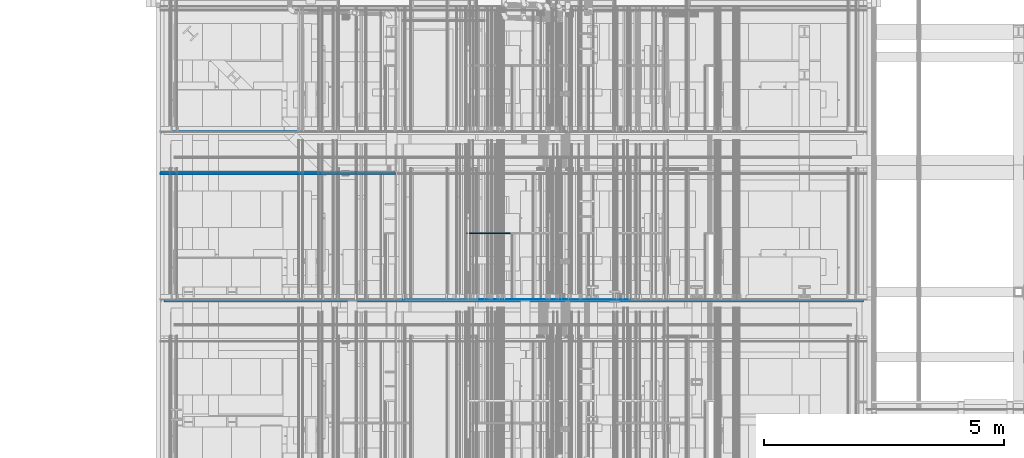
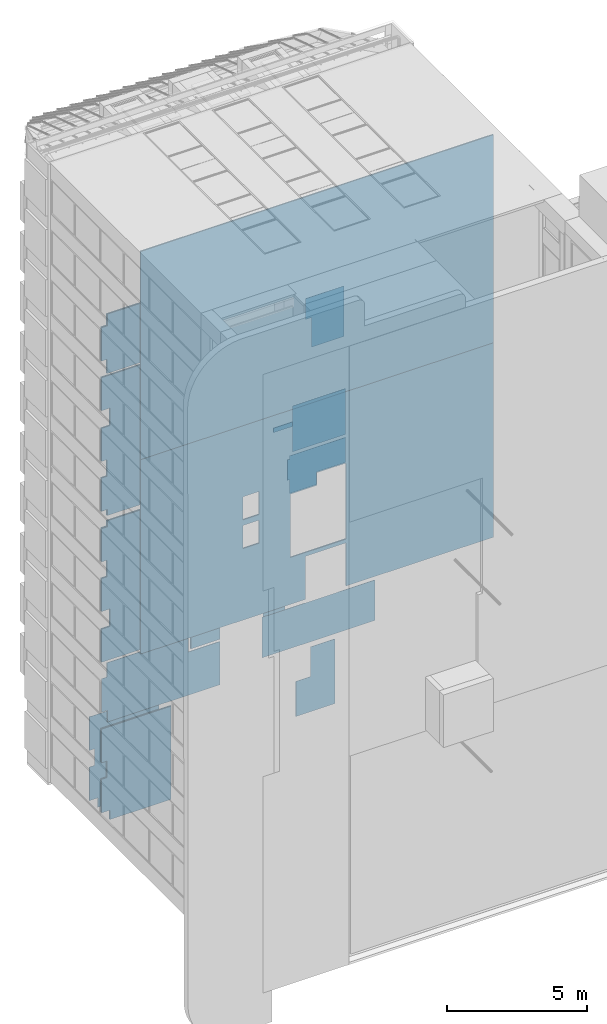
# One storey, part 250 of 583: 20 slabs.
"""IFC2X3 building model written with IfcOpenShell, lengths in metres."""

from ifc_helpers import new_model, entity, si_unit, converted_unit, derived_unit, money_unit, direction, frame, origin_with_axes, place, context, subcontext, project, spatial, faceted_brep, material, type_object, element, save


model = new_model("IFC2X3")

# Units and contexts
model_context = context("Model", 3, precision=1e-05, world=origin_with_axes(), true_north=direction((0.0, 1.0)))
body_context = subcontext(model_context, "Body", "Model", "MODEL_VIEW", scale=1.0)
ifc_project = project(units=[si_unit("LENGTHUNIT", "METRE"), si_unit("AREAUNIT", "SQUARE_METRE"), si_unit("VOLUMEUNIT", "CUBIC_METRE"), si_unit("ABSORBEDDOSEUNIT", "GRAY"), si_unit("AMOUNTOFSUBSTANCEUNIT", "MOLE"), si_unit("DOSEEQUIVALENTUNIT", "SIEVERT"), si_unit("ELECTRICCAPACITANCEUNIT", "FARAD"), si_unit("ELECTRICCHARGEUNIT", "COULOMB"), si_unit("ELECTRICCONDUCTANCEUNIT", "SIEMENS"), si_unit("ELECTRICCURRENTUNIT", "AMPERE"), si_unit("ELECTRICRESISTANCEUNIT", "OHM"), si_unit("ELECTRICVOLTAGEUNIT", "VOLT"), si_unit("ENERGYUNIT", "JOULE"), si_unit("FORCEUNIT", "NEWTON"), si_unit("FREQUENCYUNIT", "HERTZ"), si_unit("ILLUMINANCEUNIT", "LUX"), si_unit("INDUCTANCEUNIT", "HENRY"), si_unit("LUMINOUSFLUXUNIT", "LUMEN"), si_unit("LUMINOUSINTENSITYUNIT", "CANDELA"), si_unit("MAGNETICFLUXDENSITYUNIT", "TESLA"), si_unit("MAGNETICFLUXUNIT", "WEBER"), si_unit("MASSUNIT", "GRAM"), converted_unit("PLANEANGLEUNIT", "degree", entity("IfcReal", 0.0174532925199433), si_unit("PLANEANGLEUNIT", "RADIAN"), dimensions=[0, 0, 0, 0, 0, 0, 0]), si_unit("POWERUNIT", "WATT"), si_unit("PRESSUREUNIT", "PASCAL"), si_unit("RADIOACTIVITYUNIT", "BECQUEREL"), si_unit("SOLIDANGLEUNIT", "STERADIAN"), si_unit("THERMODYNAMICTEMPERATUREUNIT", "KELVIN"), si_unit("TIMEUNIT", "SECOND"), derived_unit("ACCELERATIONUNIT", [(si_unit("LENGTHUNIT", "METRE"), 1), (si_unit("TIMEUNIT", "SECOND"), -2)]), derived_unit("ANGULARVELOCITYUNIT", [(converted_unit("PLANEANGLEUNIT", "degree", entity("IfcReal", 0.0174532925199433), si_unit("PLANEANGLEUNIT", "RADIAN"), dimensions=[0, 0, 0, 0, 0, 0, 0]), 1), (si_unit("TIMEUNIT", "SECOND"), -1)]), derived_unit("CURVATUREUNIT", [(converted_unit("PLANEANGLEUNIT", "degree", entity("IfcReal", 0.0174532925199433), si_unit("PLANEANGLEUNIT", "RADIAN"), dimensions=[0, 0, 0, 0, 0, 0, 0]), 1), (si_unit("LENGTHUNIT", "METRE"), -1)]), derived_unit("DYNAMICVISCOSITYUNIT", [(si_unit("PRESSUREUNIT", "PASCAL"), 1), (si_unit("TIMEUNIT", "SECOND"), 1)]), derived_unit("HEATFLUXDENSITYUNIT", [(si_unit("POWERUNIT", "WATT"), 1), (si_unit("LENGTHUNIT", "METRE"), -2)]), derived_unit("HEATINGVALUEUNIT", [(si_unit("ENERGYUNIT", "JOULE"), 1), (si_unit("MASSUNIT", "GRAM"), -1)]), derived_unit("INTEGERCOUNTRATEUNIT", [(si_unit("TIMEUNIT", "SECOND"), -1)]), derived_unit("IONCONCENTRATIONUNIT", [(si_unit("MASSUNIT", "GRAM"), 1), (si_unit("VOLUMEUNIT", "CUBIC_METRE"), -1)]), derived_unit("ISOTHERMALMOISTURECAPACITYUNIT", [(si_unit("VOLUMEUNIT", "CUBIC_METRE"), 1), (si_unit("MASSUNIT", "GRAM"), -1)]), derived_unit("KINEMATICVISCOSITYUNIT", [(si_unit("AREAUNIT", "SQUARE_METRE"), 1), (si_unit("TIMEUNIT", "SECOND"), -1)]), derived_unit("LINEARFORCEUNIT", [(si_unit("FORCEUNIT", "NEWTON"), 1), (si_unit("LENGTHUNIT", "METRE"), -1)]), derived_unit("LINEARMOMENTUNIT", [(si_unit("FORCEUNIT", "NEWTON"), 1), (si_unit("LENGTHUNIT", "METRE"), -1)]), derived_unit("LINEARSTIFFNESSUNIT", [(si_unit("FORCEUNIT", "NEWTON"), 1), (si_unit("LENGTHUNIT", "METRE"), -1)]), derived_unit("LINEARVELOCITYUNIT", [(si_unit("LENGTHUNIT", "METRE"), 1), (si_unit("TIMEUNIT", "SECOND"), -1)]), derived_unit("LUMINOUSINTENSITYDISTRIBUTIONUNIT", [(si_unit("LUMINOUSINTENSITYUNIT", "CANDELA"), 1), (si_unit("LUMINOUSFLUXUNIT", "LUMEN"), -1)]), derived_unit("MASSDENSITYUNIT", [(si_unit("MASSUNIT", "GRAM"), 1), (si_unit("VOLUMEUNIT", "CUBIC_METRE"), -1)]), derived_unit("MASSFLOWRATEUNIT", [(si_unit("MASSUNIT", "GRAM"), 1), (si_unit("TIMEUNIT", "SECOND"), -1)]), derived_unit("MASSPERLENGTHUNIT", [(si_unit("MASSUNIT", "GRAM"), 1), (si_unit("LENGTHUNIT", "METRE"), -1)]), derived_unit("MODULUSOFELASTICITYUNIT", [(si_unit("FORCEUNIT", "NEWTON"), 1), (si_unit("AREAUNIT", "SQUARE_METRE"), -1)]), derived_unit("MODULUSOFLINEARSUBGRADEREACTIONUNIT", [(si_unit("FORCEUNIT", "NEWTON"), 1), (si_unit("LENGTHUNIT", "METRE"), -2)]), derived_unit("MODULUSOFROTATIONALSUBGRADEREACTIONUNIT", [(si_unit("FORCEUNIT", "NEWTON"), 1), (si_unit("LENGTHUNIT", "METRE"), 1)]), derived_unit("MODULUSOFSUBGRADEREACTIONUNIT", [(si_unit("FORCEUNIT", "NEWTON"), 1), (si_unit("VOLUMEUNIT", "CUBIC_METRE"), -1)]), derived_unit("MOISTUREDIFFUSIVITYUNIT", [(si_unit("VOLUMEUNIT", "CUBIC_METRE"), 1), (si_unit("TIMEUNIT", "SECOND"), -1)]), derived_unit("MOLECULARWEIGHTUNIT", [(si_unit("MASSUNIT", "GRAM"), 1), (si_unit("AMOUNTOFSUBSTANCEUNIT", "MOLE"), -1)]), derived_unit("PLANARFORCEUNIT", [(si_unit("FORCEUNIT", "NEWTON"), 1), (si_unit("LENGTHUNIT", "METRE"), -2)]), derived_unit("ROTATIONALFREQUENCYUNIT", [(si_unit("TIMEUNIT", "SECOND"), -1)]), derived_unit("ROTATIONALMASSUNIT", [(si_unit("MASSUNIT", "GRAM"), 1), (si_unit("LENGTHUNIT", "METRE"), 2)]), derived_unit("ROTATIONALSTIFFNESSUNIT", [(si_unit("FORCEUNIT", "NEWTON"), 1), (si_unit("LENGTHUNIT", "METRE"), 1), (converted_unit("PLANEANGLEUNIT", "degree", entity("IfcReal", 0.0174532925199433), si_unit("PLANEANGLEUNIT", "RADIAN"), dimensions=[0, 0, 0, 0, 0, 0, 0]), -1)]), derived_unit("SECTIONAREAINTEGRALUNIT", [(si_unit("LENGTHUNIT", "METRE"), 5)]), derived_unit("SECTIONMODULUSUNIT", [(si_unit("LENGTHUNIT", "METRE"), 3)]), derived_unit("SHEARMODULUSUNIT", [(si_unit("FORCEUNIT", "NEWTON"), 1), (si_unit("AREAUNIT", "SQUARE_METRE"), -1)]), derived_unit("SOUNDPOWERUNIT", [(si_unit("ENERGYUNIT", "JOULE"), 1), (si_unit("TIMEUNIT", "SECOND"), -1)]), derived_unit("SPECIFICHEATCAPACITYUNIT", [(si_unit("FORCEUNIT", "NEWTON"), 1), (si_unit("MASSUNIT", "GRAM"), -1), (si_unit("THERMODYNAMICTEMPERATUREUNIT", "KELVIN"), -1)]), derived_unit("TEMPERATUREGRADIENTUNIT", [(si_unit("THERMODYNAMICTEMPERATUREUNIT", "KELVIN"), 1), (si_unit("LENGTHUNIT", "METRE"), -1)]), derived_unit("THERMALADMITTANCEUNIT", [(si_unit("POWERUNIT", "WATT"), 1), (si_unit("AREAUNIT", "SQUARE_METRE"), -1), (si_unit("THERMODYNAMICTEMPERATUREUNIT", "KELVIN"), -1)]), derived_unit("THERMALCONDUCTANCEUNIT", [(si_unit("POWERUNIT", "WATT"), 1), (si_unit("LENGTHUNIT", "METRE"), -1), (si_unit("THERMODYNAMICTEMPERATUREUNIT", "KELVIN"), -1)]), derived_unit("THERMALEXPANSIONCOEFFICIENTUNIT", [(si_unit("THERMODYNAMICTEMPERATUREUNIT", "KELVIN"), -1)]), derived_unit("THERMALRESISTANCEUNIT", [(si_unit("AREAUNIT", "SQUARE_METRE"), 1), (si_unit("POWERUNIT", "WATT"), -1)]), derived_unit("THERMALTRANSMITTANCEUNIT", [(si_unit("POWERUNIT", "WATT"), 1), (si_unit("AREAUNIT", "SQUARE_METRE"), -1), (si_unit("THERMODYNAMICTEMPERATUREUNIT", "KELVIN"), -1)]), derived_unit("TORQUEUNIT", [(si_unit("FORCEUNIT", "NEWTON"), 1), (si_unit("LENGTHUNIT", "METRE"), 1)]), derived_unit("VAPORPERMEABILITYUNIT", [(si_unit("MASSUNIT", "GRAM"), 1), (si_unit("TIMEUNIT", "SECOND"), -1)]), derived_unit("VOLUMETRICFLOWRATEUNIT", [(si_unit("VOLUMEUNIT", "CUBIC_METRE"), 1), (si_unit("TIMEUNIT", "SECOND"), -1)]), derived_unit("WARPINGCONSTANTUNIT", [(si_unit("LENGTHUNIT", "METRE"), 6)]), derived_unit("WARPINGMOMENTUNIT", [(si_unit("FORCEUNIT", "NEWTON"), 1), (si_unit("LENGTHUNIT", "METRE"), 2)]), money_unit("GBP")], contexts=[model_context])

# Site, building, storey
site_placement = place(None, origin_with_axes())
site = spatial("IfcSite", under=ifc_project, at=site_placement, Name="Site", CompositionType="ELEMENT")
building_placement = place(site_placement, origin_with_axes())
building = spatial("IfcBuilding", under=site, at=building_placement, Name="Building01", CompositionType="ELEMENT")
storey_placement = place(building_placement, frame((0.0, 0.0, 20.78), z_axis=(0.0, 0.0, 1.0), x_axis=(1.0, 0.0, 0.0)))
storey = spatial("IfcBuildingStorey", under=building, at=storey_placement, Name="RL", CompositionType="ELEMENT", Elevation=20.78)

# Slabs
ifc_material_1 = material(Name="A_BSUK_Carpet-Pile")
slab_type_1 = type_object("IfcSlabType", Name="A-FloorsSlabs A_BSUK_Slabs", PredefinedType="FLOOR")
placement = place(storey_placement, frame((0.0, 0.0, -20.78), z_axis=(0.0, 0.0, 1.0), x_axis=(1.0, 0.0, 0.0)))
element("IfcSlab", 1, at=placement, inside=storey, type_object=slab_type_1, material=ifc_material_1, Name="A-FloorsSlabs A_BSUK_Slabs", ObjectType="CompoundSlabLeaf", context=body_context, shape_type="Brep", body=[
    faceted_brep([(0.448, 12.133, 0.318), (0.448, 12.145, 0.318), (2.970286, 12.145, 0.318), (2.970286, 12.133, 0.318), (0.448, 12.133, 0.725), (0.448, 12.145, 0.725), (0.1, 12.133, 0.725), (0.1, 12.145, 0.725), (0.1, 12.133, 2.195), (0.1, 12.145, 2.195), (0.318, 12.133, 2.195), (0.318, 12.145, 2.195), (0.318, 12.133, 2.915), (0.318, 12.145, 2.915), (0.1, 12.133, 2.915), (0.1, 12.145, 2.915), (0.1, 12.133, 4.385), (0.1, 12.145, 4.385), (2.970286, 12.133, 4.385), (2.970286, 12.145, 4.385)], [[[0, 1, 2, 3]], [[4, 5, 1, 0]], [[6, 7, 5, 4]], [[8, 9, 7, 6]], [[10, 11, 9, 8]], [[12, 13, 11, 10]], [[14, 15, 13, 12]], [[16, 17, 15, 14]], [[18, 19, 17, 16]], [[3, 2, 19, 18]], [[1, 5, 7, 9, 11, 13, 15, 17, 19, 2]], [[3, 18, 16, 14, 12, 10, 8, 6, 4, 0]]]),
])
ifc_material_2 = material(Name="A_BSUK_InternalFinishes_FloorScreed")
element("IfcSlab", 2, at=placement, inside=storey, type_object=slab_type_1, material=ifc_material_2, Name="A-FloorsSlabs A_BSUK_Slabs", ObjectType="CompoundSlabLeaf", context=body_context, shape_type="Brep", body=[
    faceted_brep([(14.73, 8.59, 17.73), (14.73, 8.64, 17.73), (14.73, 8.64, 26.81), (14.73, 8.59, 26.81), (0.17, 8.59, 17.73), (0.17, 8.64, 17.73), (0.17, 8.59, 26.81), (0.17, 8.64, 26.81)], [[[0, 1, 2, 3]], [[4, 5, 1, 0]], [[6, 7, 5, 4]], [[3, 2, 7, 6]], [[1, 5, 7, 2]], [[3, 6, 4, 0]]]),
])
element("IfcSlab", 3, at=placement, inside=storey, type_object=slab_type_1, material=ifc_material_2, Name="A-FloorsSlabs A_BSUK_Slabs", ObjectType="CompoundSlabLeaf", context=body_context, shape_type="Brep", body=[
    faceted_brep([(8.65, 8.64, 11.13), (6.98, 8.64, 11.13), (6.98, 8.64, 9.25), (0.17, 8.64, 9.25), (0.17, 8.64, 17.73), (14.73, 8.64, 17.73), (14.73, 8.64, 9.25), (8.65, 8.64, 9.25), (5.05385, 8.64, 13.375), (4.389428, 8.64, 13.375), (4.389428, 8.64, 12.375), (5.05385, 8.64, 12.375), (5.05385, 8.64, 14.625), (4.389428, 8.64, 14.625), (4.389428, 8.64, 13.625), (5.05385, 8.64, 13.625), (6.35, 8.64, 14.059316), (6.35, 8.64, 11.3), (8.65, 8.64, 11.3), (8.65, 8.64, 14.609584), (7.454282, 8.64, 14.609584), (7.454282, 8.64, 14.059316), (8.65, 8.59, 11.13), (8.65, 8.59, 9.25), (14.73, 8.59, 9.25), (14.73, 8.59, 17.73), (0.17, 8.59, 17.73), (0.17, 8.59, 9.25), (6.98, 8.59, 9.25), (6.98, 8.59, 11.13), (5.05385, 8.59, 13.375), (5.05385, 8.59, 12.375), (4.389428, 8.59, 12.375), (4.389428, 8.59, 13.375), (6.35, 8.59, 14.059316), (7.454282, 8.59, 14.059316), (7.454282, 8.59, 14.609584), (8.65, 8.59, 14.609584), (8.65, 8.59, 11.3), (6.35, 8.59, 11.3), (5.05385, 8.59, 14.625), (5.05385, 8.59, 13.625), (4.389428, 8.59, 13.625), (4.389428, 8.59, 14.625)], [[[0, 1, 2, 3, 4, 5, 6, 7], [8, 9, 10, 11], [12, 13, 14, 15], [16, 17, 18, 19, 20, 21]], [[22, 23, 24, 25, 26, 27, 28, 29], [30, 31, 32, 33], [34, 35, 36, 37, 38, 39], [40, 41, 42, 43]], [[23, 7, 6, 24]], [[2, 28, 27, 3]], [[35, 21, 20, 36]], [[24, 6, 5, 25]], [[26, 4, 3, 27]], [[25, 5, 4, 26]], [[15, 41, 40, 12]], [[12, 40, 43, 13]], [[13, 43, 42, 14]], [[14, 42, 41, 15]], [[11, 31, 30, 8]], [[8, 30, 33, 9]], [[9, 33, 32, 10]], [[10, 32, 31, 11]], [[18, 38, 37, 19]], [[19, 37, 36, 20]], [[17, 39, 38, 18]], [[16, 34, 39, 17]], [[21, 35, 34, 16]], [[0, 22, 29, 1]], [[7, 23, 22, 0]], [[1, 29, 28, 2]]]),
])
ifc_material_3 = material(Name="A_BSUK_Ceramic_WallTiles")
element("IfcSlab", 4, at=placement, inside=storey, type_object=slab_type_1, material=ifc_material_3, Name="A-FloorsSlabs A_BSUK_Slabs", ObjectType="CompoundSlabLeaf", context=body_context, shape_type="Brep", body=[
    faceted_brep([(6.475, 10.015, 16.03), (6.475, 10.04, 16.03), (6.475, 10.04, 15.83), (6.475, 10.015, 15.83), (7.849998, 10.015, 16.03), (7.849998, 10.04, 16.03), (7.85, 10.015, 15.830003), (7.85, 10.04, 15.830003)], [[[0, 1, 2, 3]], [[4, 5, 1, 0]], [[6, 7, 5, 4]], [[3, 2, 7, 6]], [[1, 5, 7, 2]], [[3, 6, 4, 0]]]),
])
ifc_material_4 = material(Name="A_BSUK_ExpandedPolystyreneBoards")
element("IfcSlab", 5, at=placement, inside=storey, type_object=slab_type_1, material=ifc_material_4, Name="A-FloorsSlabs A_BSUK_Slabs", ObjectType="CompoundSlabLeaf", context=body_context, shape_type="Brep", body=[
    faceted_brep([(5.205, 8.64, 7.289669), (5.205, 8.643, 7.289669), (9.862704, 8.643, 7.289669), (9.862704, 8.64, 7.289669), (5.205, 8.64, 9.06), (5.205, 8.643, 9.06), (6.607081, 8.64, 9.06), (6.607081, 8.643, 9.06), (8.372405, 8.64, 9.06), (8.372405, 8.643, 9.06), (8.9, 8.64, 9.06), (8.9, 8.643, 9.06), (9.862704, 8.64, 9.06), (9.862704, 8.643, 9.06)], [[[0, 1, 2, 3]], [[4, 5, 1, 0]], [[6, 7, 5, 4]], [[8, 9, 7, 6]], [[10, 11, 9, 8]], [[12, 13, 11, 10]], [[3, 2, 13, 12]], [[1, 5, 7, 9, 11, 13, 2]], [[3, 12, 10, 8, 6, 4, 0]]]),
])
element("IfcSlab", 6, at=placement, inside=storey, type_object=slab_type_1, material=ifc_material_4, Name="A-FloorsSlabs A_BSUK_Slabs", ObjectType="CompoundSlabLeaf", context=body_context, shape_type="Brep", body=[
    faceted_brep([(6.15, 8.64, 9.25), (6.15, 8.643, 9.25), (6.85, 8.643, 9.25), (6.85, 8.64, 9.25), (6.15, 8.64, 9.06), (6.15, 8.643, 9.06), (5.25, 8.64, 9.06), (5.25, 8.643, 9.06), (5.25, 8.64, 9.25), (5.25, 8.643, 9.25), (5.15, 8.64, 9.25), (5.15, 8.643, 9.25), (5.15, 8.64, 17.83), (5.15, 8.643, 17.83), (5.25, 8.64, 17.83), (5.25, 8.643, 17.83), (5.25, 8.64, 18.0), (5.25, 8.643, 18.0), (6.15, 8.64, 18.0), (6.15, 8.643, 18.0), (6.15, 8.64, 17.83), (6.15, 8.643, 17.83), (6.25, 8.64, 17.83), (6.25, 8.643, 17.83), (6.25, 8.64, 15.558), (6.25, 8.643, 15.558), (6.35, 8.64, 15.558), (6.35, 8.643, 15.558), (6.35, 8.64, 15.6), (6.35, 8.643, 15.6), (6.35, 8.64, 15.7), (6.35, 8.643, 15.7), (8.65, 8.64, 15.7), (8.65, 8.643, 15.7), (8.65, 8.64, 14.609584), (8.65, 8.643, 14.609584), (7.454282, 8.64, 14.609584), (7.454282, 8.643, 14.609584), (7.454282, 8.64, 14.059316), (7.454282, 8.643, 14.059316), (6.35, 8.64, 14.059316), (6.35, 8.643, 14.059316), (6.35, 8.64, 14.658), (6.35, 8.643, 14.658), (6.25, 8.64, 14.658), (6.25, 8.643, 14.658), (6.25, 8.64, 11.13), (6.25, 8.643, 11.13), (6.85, 8.64, 11.13), (6.85, 8.643, 11.13)], [[[0, 1, 2, 3]], [[4, 5, 1, 0]], [[6, 7, 5, 4]], [[8, 9, 7, 6]], [[10, 11, 9, 8]], [[12, 13, 11, 10]], [[14, 15, 13, 12]], [[16, 17, 15, 14]], [[18, 19, 17, 16]], [[20, 21, 19, 18]], [[22, 23, 21, 20]], [[24, 25, 23, 22]], [[26, 27, 25, 24]], [[28, 29, 27, 26]], [[30, 31, 29, 28]], [[32, 33, 31, 30]], [[34, 35, 33, 32]], [[36, 37, 35, 34]], [[38, 39, 37, 36]], [[40, 41, 39, 38]], [[42, 43, 41, 40]], [[44, 45, 43, 42]], [[46, 47, 45, 44]], [[48, 49, 47, 46]], [[3, 2, 49, 48]], [[1, 5, 7, 9, 11, 13, 15, 17, 19, 21, 23, 25, 27, 29, 31, 33, 35, 37, 39, 41, 43, 45, 47, 49, 2]], [[3, 48, 46, 44, 42, 40, 38, 36, 34, 32, 30, 28, 26, 24, 22, 20, 18, 16, 14, 12, 10, 8, 6, 4, 0]]]),
])
ifc_material_5 = material(Name="A_BSUK_Ceramic_FloorTiles")
element("IfcSlab", 7, at=placement, inside=storey, type_object=slab_type_1, material=ifc_material_5, Name="A-FloorsSlabs A_BSUK_Slabs", ObjectType="CompoundSlabLeaf", context=body_context, shape_type="Brep", body=[
    faceted_brep([(6.475, 8.643, 15.83), (6.475, 8.655, 15.83), (8.65, 8.655, 15.83), (8.65, 8.643, 15.83), (6.475, 8.643, 17.83), (6.475, 8.655, 17.83), (8.65, 8.643, 17.83), (8.65, 8.655, 17.83)], [[[0, 1, 2, 3]], [[4, 5, 1, 0]], [[6, 7, 5, 4]], [[3, 2, 7, 6]], [[1, 5, 7, 2]], [[3, 6, 4, 0]]]),
])
element("IfcSlab", 8, at=placement, inside=storey, type_object=slab_type_1, material=ifc_material_5, Name="A-FloorsSlabs A_BSUK_Slabs", ObjectType="CompoundSlabLeaf", context=body_context, shape_type="Brep", body=[
    faceted_brep([(8.595, 8.643, 20.122661), (8.595, 8.655, 20.122661), (8.595, 8.655, 22.326661), (8.595, 8.643, 22.326661), (7.25, 8.643, 20.122661), (7.25, 8.655, 20.122661), (7.25, 8.643, 21.417661), (7.25, 8.655, 21.417661), (7.0, 8.643, 21.417661), (7.0, 8.655, 21.417661), (7.0, 8.643, 22.326661), (7.0, 8.655, 22.326661)], [[[0, 1, 2, 3]], [[4, 5, 1, 0]], [[6, 7, 5, 4]], [[8, 9, 7, 6]], [[10, 11, 9, 8]], [[3, 2, 11, 10]], [[1, 5, 7, 9, 11, 2]], [[3, 10, 8, 6, 4, 0]]]),
])
element("IfcSlab", 9, at=placement, inside=storey, type_object=slab_type_1, material=ifc_material_5, Name="A-FloorsSlabs A_BSUK_Slabs", ObjectType="CompoundSlabLeaf", context=body_context, shape_type="Brep", body=[
    faceted_brep([(8.21067, 8.643, 4.24073), (8.21067, 8.655, 4.24073), (8.21067, 8.655, 7.064669), (8.21067, 8.643, 7.064669), (6.606475, 8.643, 4.24073), (6.606475, 8.655, 4.24073), (6.606475, 8.643, 5.769669), (6.606475, 8.655, 5.769669), (7.206475, 8.643, 5.769669), (7.206475, 8.655, 5.769669), (7.206475, 8.643, 7.064669), (7.206475, 8.655, 7.064669)], [[[0, 1, 2, 3]], [[4, 5, 1, 0]], [[6, 7, 5, 4]], [[8, 9, 7, 6]], [[10, 11, 9, 8]], [[3, 2, 11, 10]], [[1, 5, 7, 9, 11, 2]], [[3, 10, 8, 6, 4, 0]]]),
])
element("IfcSlab", 10, at=placement, inside=storey, type_object=slab_type_1, material=ifc_material_1, Name="A-FloorsSlabs A_BSUK_Slabs", ObjectType="CompoundSlabLeaf", context=body_context, shape_type="Brep", body=[
    faceted_brep([(9.862704, 8.643, 7.289669), (9.862704, 8.655, 7.289669), (9.862704, 8.655, 9.06), (9.862704, 8.643, 9.06), (5.205, 8.643, 7.289669), (5.205, 8.655, 7.289669), (5.205, 8.643, 9.06), (5.205, 8.655, 9.06), (6.968405, 8.643, 9.06), (6.968405, 8.655, 9.06), (6.968405, 8.643, 8.658), (6.968405, 8.655, 8.658), (7.610847, 8.643, 8.658), (7.610847, 8.655, 8.658), (8.372405, 8.643, 8.658), (8.372405, 8.655, 8.658), (8.372405, 8.643, 9.06), (8.372405, 8.655, 9.06)], [[[0, 1, 2, 3]], [[4, 5, 1, 0]], [[6, 7, 5, 4]], [[8, 9, 7, 6]], [[10, 11, 9, 8]], [[12, 13, 11, 10]], [[14, 15, 13, 12]], [[16, 17, 15, 14]], [[3, 2, 17, 16]], [[1, 5, 7, 9, 11, 13, 15, 17, 2]], [[3, 16, 14, 12, 10, 8, 6, 4, 0]]]),
])
element("IfcSlab", 11, at=placement, inside=storey, type_object=slab_type_1, material=ifc_material_1, Name="A-FloorsSlabs A_BSUK_Slabs", ObjectType="CompoundSlabLeaf", context=body_context, shape_type="Brep", body=[
    faceted_brep([(7.454282, 8.643, 14.609584), (7.454282, 8.655, 14.609584), (8.65, 8.655, 14.609584), (8.65, 8.643, 14.609584), (7.454282, 8.643, 14.059316), (7.454282, 8.655, 14.059316), (6.35, 8.643, 14.059316), (6.35, 8.655, 14.059316), (6.35, 8.643, 14.658), (6.35, 8.655, 14.658), (6.25, 8.643, 14.658), (6.25, 8.655, 14.658), (6.25, 8.643, 15.558), (6.25, 8.655, 15.558), (6.35, 8.643, 15.558), (6.35, 8.655, 15.558), (6.35, 8.643, 15.7), (6.35, 8.655, 15.7), (8.65, 8.643, 15.7), (8.65, 8.655, 15.7)], [[[0, 1, 2, 3]], [[4, 5, 1, 0]], [[6, 7, 5, 4]], [[8, 9, 7, 6]], [[10, 11, 9, 8]], [[12, 13, 11, 10]], [[14, 15, 13, 12]], [[16, 17, 15, 14]], [[18, 19, 17, 16]], [[3, 2, 19, 18]], [[1, 5, 7, 9, 11, 13, 15, 17, 19, 2]], [[3, 18, 16, 14, 12, 10, 8, 6, 4, 0]]]),
])
ifc_material_6 = material(Name="A_BSUK_CeilingSoffitFinishes_Suspended")
element("IfcSlab", 12, at=placement, inside=storey, type_object=slab_type_1, material=ifc_material_6, Name="A-FloorsSlabs A_BSUK_Slabs", ObjectType="CompoundSlabLeaf", context=body_context, shape_type="Brep", body=[
    faceted_brep([(4.98, 11.255, 8.6725), (4.98, 11.27, 8.6725), (4.98, 11.27, 9.097536), (4.98, 11.255, 9.097536), (4.98, 11.255, 7.6725), (4.98, 11.27, 7.6725), (4.98, 11.255, 6.595), (4.98, 11.27, 6.595), (3.78, 11.255, 6.595), (3.78, 11.27, 6.595), (3.78, 11.255, 7.295), (3.78, 11.27, 7.295), (3.151781, 11.255, 7.295), (3.151781, 11.27, 7.295), (0.1, 11.255, 7.295), (0.1, 11.27, 7.295), (0.1, 11.255, 8.742), (0.1, 11.27, 8.742), (0.448, 11.255, 8.742), (0.448, 11.27, 8.742), (0.448, 11.255, 9.508), (0.448, 11.27, 9.508), (0.1, 11.255, 9.508), (0.1, 11.27, 9.508), (0.1, 11.255, 10.955), (0.1, 11.27, 10.955), (0.318, 11.255, 10.955), (0.318, 11.27, 10.955), (0.318, 11.255, 11.675), (0.318, 11.27, 11.675), (0.1, 11.255, 11.675), (0.1, 11.27, 11.675), (0.1, 11.255, 13.13), (0.1, 11.27, 13.13), (0.333, 11.255, 13.13), (0.333, 11.27, 13.13), (0.333, 11.255, 13.3875), (0.333, 11.27, 13.3875), (4.164428, 11.255, 13.3875), (4.164428, 11.27, 13.3875), (4.164428, 11.255, 12.15), (4.164428, 11.27, 12.15), (4.98, 11.255, 12.15), (4.98, 11.27, 12.15), (4.98, 11.255, 11.687536), (4.98, 11.27, 11.687536), (3.385, 11.255, 11.687536), (3.385, 11.27, 11.687536), (3.385, 11.255, 9.097536), (3.385, 11.27, 9.097536)], [[[0, 1, 2, 3]], [[4, 5, 1, 0]], [[6, 7, 5, 4]], [[8, 9, 7, 6]], [[10, 11, 9, 8]], [[12, 13, 11, 10]], [[14, 15, 13, 12]], [[16, 17, 15, 14]], [[18, 19, 17, 16]], [[20, 21, 19, 18]], [[22, 23, 21, 20]], [[24, 25, 23, 22]], [[26, 27, 25, 24]], [[28, 29, 27, 26]], [[30, 31, 29, 28]], [[32, 33, 31, 30]], [[34, 35, 33, 32]], [[36, 37, 35, 34]], [[38, 39, 37, 36]], [[40, 41, 39, 38]], [[42, 43, 41, 40]], [[44, 45, 43, 42]], [[46, 47, 45, 44]], [[48, 49, 47, 46]], [[3, 2, 49, 48]], [[1, 5, 7, 9, 11, 13, 15, 17, 19, 21, 23, 25, 27, 29, 31, 33, 35, 37, 39, 41, 43, 45, 47, 49, 2]], [[3, 48, 46, 44, 42, 40, 38, 36, 34, 32, 30, 28, 26, 24, 22, 20, 18, 16, 14, 12, 10, 8, 6, 4, 0]]]),
])
element("IfcSlab", 13, at=placement, inside=storey, type_object=slab_type_1, material=ifc_material_6, Name="A-FloorsSlabs A_BSUK_Slabs", ObjectType="CompoundSlabLeaf", context=body_context, shape_type="Brep", body=[
    faceted_brep([(4.98, 11.255, 17.9025), (4.98, 11.27, 17.9025), (4.98, 11.27, 18.395), (4.98, 11.255, 18.395), (4.232781, 11.255, 17.9025), (4.232781, 11.27, 17.9025), (3.385, 11.255, 17.9025), (3.385, 11.27, 17.9025), (3.385, 11.255, 15.3125), (3.385, 11.27, 15.3125), (4.98, 11.255, 15.3125), (4.98, 11.27, 15.3125), (4.98, 11.255, 14.85), (4.98, 11.27, 14.85), (4.164428, 11.255, 14.85), (4.164428, 11.27, 14.85), (4.164428, 11.255, 13.6125), (4.164428, 11.27, 13.6125), (0.333, 11.255, 13.6125), (0.333, 11.27, 13.6125), (0.333, 11.255, 13.880124), (0.333, 11.27, 13.880124), (0.1, 11.255, 13.880124), (0.1, 11.27, 13.880124), (0.1, 11.255, 15.335), (0.1, 11.27, 15.335), (0.318, 11.255, 15.335), (0.318, 11.27, 15.335), (0.318, 11.255, 16.055), (0.318, 11.27, 16.055), (0.1, 11.255, 16.055), (0.1, 11.27, 16.055), (0.1, 11.255, 17.502), (0.1, 11.27, 17.502), (0.448, 11.255, 17.502), (0.448, 11.27, 17.502), (0.448, 11.255, 18.268), (0.448, 11.27, 18.268), (0.1, 11.255, 18.268), (0.1, 11.27, 18.268), (0.1, 11.255, 19.715), (0.1, 11.27, 19.715), (3.151781, 11.255, 19.715), (3.151781, 11.27, 19.715), (3.78, 11.255, 19.715), (3.78, 11.27, 19.715), (3.78, 11.255, 20.415), (3.78, 11.27, 20.415), (4.98, 11.255, 20.415), (4.98, 11.27, 20.415), (4.98, 11.255, 19.395), (4.98, 11.27, 19.395)], [[[0, 1, 2, 3]], [[4, 5, 1, 0]], [[6, 7, 5, 4]], [[8, 9, 7, 6]], [[10, 11, 9, 8]], [[12, 13, 11, 10]], [[14, 15, 13, 12]], [[16, 17, 15, 14]], [[18, 19, 17, 16]], [[20, 21, 19, 18]], [[22, 23, 21, 20]], [[24, 25, 23, 22]], [[26, 27, 25, 24]], [[28, 29, 27, 26]], [[30, 31, 29, 28]], [[32, 33, 31, 30]], [[34, 35, 33, 32]], [[36, 37, 35, 34]], [[38, 39, 37, 36]], [[40, 41, 39, 38]], [[42, 43, 41, 40]], [[44, 45, 43, 42]], [[46, 47, 45, 44]], [[48, 49, 47, 46]], [[50, 51, 49, 48]], [[3, 2, 51, 50]], [[1, 5, 7, 9, 11, 13, 15, 17, 19, 21, 23, 25, 27, 29, 31, 33, 35, 37, 39, 41, 43, 45, 47, 49, 51, 2]], [[3, 50, 48, 46, 44, 42, 40, 38, 36, 34, 32, 30, 28, 26, 24, 22, 20, 18, 16, 14, 12, 10, 8, 6, 4, 0]]]),
])
element("IfcSlab", 14, at=placement, inside=storey, type_object=slab_type_1, material=ifc_material_6, Name="A-FloorsSlabs A_BSUK_Slabs", ObjectType="CompoundSlabLeaf", context=body_context, shape_type="Brep", body=[
    faceted_brep([(4.98, 11.255, 20.51), (4.98, 11.27, 20.51), (4.98, 11.27, 22.4), (4.98, 11.255, 22.4), (3.685, 11.255, 20.51), (3.685, 11.27, 20.51), (3.685, 11.255, 19.81), (3.685, 11.27, 19.81), (0.318, 11.255, 19.81), (0.318, 11.27, 19.81), (0.318, 11.255, 20.435), (0.318, 11.27, 20.435), (0.1, 11.255, 20.435), (0.1, 11.27, 20.435), (0.1, 11.255, 21.89), (0.1, 11.27, 21.89), (0.333, 11.255, 21.89), (0.333, 11.27, 21.89), (0.333, 11.255, 22.4), (0.333, 11.27, 22.4)], [[[0, 1, 2, 3]], [[4, 5, 1, 0]], [[6, 7, 5, 4]], [[8, 9, 7, 6]], [[10, 11, 9, 8]], [[12, 13, 11, 10]], [[14, 15, 13, 12]], [[16, 17, 15, 14]], [[18, 19, 17, 16]], [[3, 2, 19, 18]], [[1, 5, 7, 9, 11, 13, 15, 17, 19, 2]], [[3, 18, 16, 14, 12, 10, 8, 6, 4, 0]]]),
])
element("IfcSlab", 15, at=placement, inside=storey, type_object=slab_type_1, material=ifc_material_6, Name="A-FloorsSlabs A_BSUK_Slabs", ObjectType="CompoundSlabLeaf", context=body_context, shape_type="Brep", body=[
    faceted_brep([(4.98, 11.255, 4.61), (4.98, 11.27, 4.61), (4.98, 11.27, 6.5), (4.98, 11.255, 6.5), (0.333, 11.255, 4.61), (0.333, 11.27, 4.61), (0.333, 11.255, 5.120124), (0.333, 11.27, 5.120124), (0.1, 11.255, 5.120124), (0.1, 11.27, 5.120124), (0.1, 11.255, 6.575), (0.1, 11.27, 6.575), (0.318, 11.255, 6.575), (0.318, 11.27, 6.575), (0.318, 11.255, 7.2), (0.318, 11.27, 7.2), (3.685, 11.255, 7.2), (3.685, 11.27, 7.2), (3.685, 11.255, 6.5), (3.685, 11.27, 6.5)], [[[0, 1, 2, 3]], [[4, 5, 1, 0]], [[6, 7, 5, 4]], [[8, 9, 7, 6]], [[10, 11, 9, 8]], [[12, 13, 11, 10]], [[14, 15, 13, 12]], [[16, 17, 15, 14]], [[18, 19, 17, 16]], [[3, 2, 19, 18]], [[1, 5, 7, 9, 11, 13, 15, 17, 19, 2]], [[3, 18, 16, 14, 12, 10, 8, 6, 4, 0]]]),
])
element("IfcSlab", 16, at=placement, inside=storey, type_object=slab_type_1, material=ifc_material_6, Name="A-FloorsSlabs A_BSUK_Slabs", ObjectType="CompoundSlabLeaf", context=body_context, shape_type="Brep", body=[
    faceted_brep([(0.448, 11.255, 0.318), (0.448, 11.27, 0.318), (2.970286, 11.27, 0.318), (2.970286, 11.255, 0.318), (0.448, 11.255, 0.725), (0.448, 11.27, 0.725), (0.1, 11.255, 0.725), (0.1, 11.27, 0.725), (0.1, 11.255, 2.195), (0.1, 11.27, 2.195), (0.318, 11.255, 2.195), (0.318, 11.27, 2.195), (0.318, 11.255, 2.915), (0.318, 11.27, 2.915), (0.1, 11.255, 2.915), (0.1, 11.27, 2.915), (0.1, 11.255, 4.385), (0.1, 11.27, 4.385), (2.970286, 11.255, 4.385), (2.970286, 11.27, 4.385)], [[[0, 1, 2, 3]], [[4, 5, 1, 0]], [[6, 7, 5, 4]], [[8, 9, 7, 6]], [[10, 11, 9, 8]], [[12, 13, 11, 10]], [[14, 15, 13, 12]], [[16, 17, 15, 14]], [[18, 19, 17, 16]], [[3, 2, 19, 18]], [[1, 5, 7, 9, 11, 13, 15, 17, 19, 2]], [[3, 18, 16, 14, 12, 10, 8, 6, 4, 0]]]),
])
slab_type_2 = type_object("IfcSlabType", Name="A-FloorsSlabs A_BSUK_ExpandedPolystyreneBoards", PredefinedType="FLOOR")
element("IfcSlab", 17, at=placement, inside=storey, type_object=slab_type_2, material=ifc_material_4, Name="A-FloorsSlabs A_BSUK_ExpandedPolystyreneBoards", ObjectType="CompoundSlabLeaf", context=body_context, shape_type="Brep", body=[
    faceted_brep([(4.98, 11.27, 8.6725), (4.98, 11.32, 8.6725), (4.98, 11.32, 9.097536), (4.98, 11.27, 9.097536), (4.98, 11.27, 7.6725), (4.98, 11.32, 7.6725), (4.98, 11.27, 6.595), (4.98, 11.32, 6.595), (3.78, 11.27, 6.595), (3.78, 11.32, 6.595), (3.78, 11.27, 7.295), (3.78, 11.32, 7.295), (3.151781, 11.27, 7.295), (3.151781, 11.32, 7.295), (0.1, 11.27, 7.295), (0.1, 11.32, 7.295), (0.1, 11.27, 8.742), (0.1, 11.32, 8.742), (0.448, 11.27, 8.742), (0.448, 11.32, 8.742), (0.448, 11.27, 9.508), (0.448, 11.32, 9.508), (0.1, 11.27, 9.508), (0.1, 11.32, 9.508), (0.1, 11.27, 10.955), (0.1, 11.32, 10.955), (0.318, 11.27, 10.955), (0.318, 11.32, 10.955), (0.318, 11.27, 11.675), (0.318, 11.32, 11.675), (0.1, 11.27, 11.675), (0.1, 11.32, 11.675), (0.1, 11.27, 13.145), (0.1, 11.32, 13.145), (0.318, 11.27, 13.145), (0.318, 11.32, 13.145), (0.318, 11.27, 13.3875), (0.318, 11.32, 13.3875), (4.164428, 11.27, 13.3875), (4.164428, 11.32, 13.3875), (4.164428, 11.27, 12.15), (4.164428, 11.32, 12.15), (4.98, 11.27, 12.15), (4.98, 11.32, 12.15), (4.98, 11.27, 11.687536), (4.98, 11.32, 11.687536), (3.385, 11.27, 11.687536), (3.385, 11.32, 11.687536), (3.385, 11.27, 9.097536), (3.385, 11.32, 9.097536)], [[[0, 1, 2, 3]], [[4, 5, 1, 0]], [[6, 7, 5, 4]], [[8, 9, 7, 6]], [[10, 11, 9, 8]], [[12, 13, 11, 10]], [[14, 15, 13, 12]], [[16, 17, 15, 14]], [[18, 19, 17, 16]], [[20, 21, 19, 18]], [[22, 23, 21, 20]], [[24, 25, 23, 22]], [[26, 27, 25, 24]], [[28, 29, 27, 26]], [[30, 31, 29, 28]], [[32, 33, 31, 30]], [[34, 35, 33, 32]], [[36, 37, 35, 34]], [[38, 39, 37, 36]], [[40, 41, 39, 38]], [[42, 43, 41, 40]], [[44, 45, 43, 42]], [[46, 47, 45, 44]], [[48, 49, 47, 46]], [[3, 2, 49, 48]], [[1, 5, 7, 9, 11, 13, 15, 17, 19, 21, 23, 25, 27, 29, 31, 33, 35, 37, 39, 41, 43, 45, 47, 49, 2]], [[3, 48, 46, 44, 42, 40, 38, 36, 34, 32, 30, 28, 26, 24, 22, 20, 18, 16, 14, 12, 10, 8, 6, 4, 0]]]),
])
element("IfcSlab", 18, at=placement, inside=storey, type_object=slab_type_2, material=ifc_material_4, Name="A-FloorsSlabs A_BSUK_ExpandedPolystyreneBoards", ObjectType="CompoundSlabLeaf", context=body_context, shape_type="Brep", body=[
    faceted_brep([(4.98, 11.27, 17.9025), (4.98, 11.32, 17.9025), (4.98, 11.32, 18.395), (4.98, 11.27, 18.395), (4.232781, 11.27, 17.9025), (4.232781, 11.32, 17.9025), (3.385, 11.27, 17.9025), (3.385, 11.32, 17.9025), (3.385, 11.27, 15.3125), (3.385, 11.32, 15.3125), (4.98, 11.27, 15.3125), (4.98, 11.32, 15.3125), (4.98, 11.27, 14.85), (4.98, 11.32, 14.85), (4.164428, 11.27, 14.85), (4.164428, 11.32, 14.85), (4.164428, 11.27, 13.6125), (4.164428, 11.32, 13.6125), (0.318, 11.27, 13.6125), (0.318, 11.32, 13.6125), (0.318, 11.27, 13.865), (0.318, 11.32, 13.865), (0.1, 11.27, 13.865), (0.1, 11.32, 13.865), (0.1, 11.27, 15.335), (0.1, 11.32, 15.335), (0.318, 11.27, 15.335), (0.318, 11.32, 15.335), (0.318, 11.27, 16.055), (0.318, 11.32, 16.055), (0.1, 11.27, 16.055), (0.1, 11.32, 16.055), (0.1, 11.27, 17.502), (0.1, 11.32, 17.502), (0.448, 11.27, 17.502), (0.448, 11.32, 17.502), (0.448, 11.27, 18.268), (0.448, 11.32, 18.268), (0.1, 11.27, 18.268), (0.1, 11.32, 18.268), (0.1, 11.27, 19.715), (0.1, 11.32, 19.715), (3.151781, 11.27, 19.715), (3.151781, 11.32, 19.715), (3.78, 11.27, 19.715), (3.78, 11.32, 19.715), (3.78, 11.27, 20.415), (3.78, 11.32, 20.415), (4.98, 11.27, 20.415), (4.98, 11.32, 20.415), (4.98, 11.27, 19.395), (4.98, 11.32, 19.395)], [[[0, 1, 2, 3]], [[4, 5, 1, 0]], [[6, 7, 5, 4]], [[8, 9, 7, 6]], [[10, 11, 9, 8]], [[12, 13, 11, 10]], [[14, 15, 13, 12]], [[16, 17, 15, 14]], [[18, 19, 17, 16]], [[20, 21, 19, 18]], [[22, 23, 21, 20]], [[24, 25, 23, 22]], [[26, 27, 25, 24]], [[28, 29, 27, 26]], [[30, 31, 29, 28]], [[32, 33, 31, 30]], [[34, 35, 33, 32]], [[36, 37, 35, 34]], [[38, 39, 37, 36]], [[40, 41, 39, 38]], [[42, 43, 41, 40]], [[44, 45, 43, 42]], [[46, 47, 45, 44]], [[48, 49, 47, 46]], [[50, 51, 49, 48]], [[3, 2, 51, 50]], [[1, 5, 7, 9, 11, 13, 15, 17, 19, 21, 23, 25, 27, 29, 31, 33, 35, 37, 39, 41, 43, 45, 47, 49, 51, 2]], [[3, 50, 48, 46, 44, 42, 40, 38, 36, 34, 32, 30, 28, 26, 24, 22, 20, 18, 16, 14, 12, 10, 8, 6, 4, 0]]]),
])
element("IfcSlab", 19, at=placement, inside=storey, type_object=slab_type_2, material=ifc_material_4, Name="A-FloorsSlabs A_BSUK_ExpandedPolystyreneBoards", ObjectType="CompoundSlabLeaf", context=body_context, shape_type="Brep", body=[
    faceted_brep([(4.98, 11.27, 20.51), (4.98, 11.32, 20.51), (4.98, 11.32, 22.4), (4.98, 11.27, 22.4), (3.685, 11.27, 20.51), (3.685, 11.32, 20.51), (3.685, 11.27, 19.81), (3.685, 11.32, 19.81), (0.318, 11.27, 19.81), (0.318, 11.32, 19.81), (0.318, 11.27, 20.435), (0.318, 11.32, 20.435), (0.1, 11.27, 20.435), (0.1, 11.32, 20.435), (0.1, 11.27, 21.905), (0.1, 11.32, 21.905), (0.318, 11.27, 21.905), (0.318, 11.32, 21.905), (0.318, 11.27, 22.4), (0.318, 11.32, 22.4)], [[[0, 1, 2, 3]], [[4, 5, 1, 0]], [[6, 7, 5, 4]], [[8, 9, 7, 6]], [[10, 11, 9, 8]], [[12, 13, 11, 10]], [[14, 15, 13, 12]], [[16, 17, 15, 14]], [[18, 19, 17, 16]], [[3, 2, 19, 18]], [[1, 5, 7, 9, 11, 13, 15, 17, 19, 2]], [[3, 18, 16, 14, 12, 10, 8, 6, 4, 0]]]),
])
element("IfcSlab", 20, at=placement, inside=storey, type_object=slab_type_2, material=ifc_material_4, Name="A-FloorsSlabs A_BSUK_ExpandedPolystyreneBoards", ObjectType="CompoundSlabLeaf", context=body_context, shape_type="Brep", body=[
    faceted_brep([(0.448, 11.27, 0.318), (0.448, 11.32, 0.318), (2.970286, 11.32, 0.318), (2.970286, 11.27, 0.318), (0.448, 11.27, 0.725), (0.448, 11.32, 0.725), (0.1, 11.27, 0.725), (0.1, 11.32, 0.725), (0.1, 11.27, 2.195), (0.1, 11.32, 2.195), (0.318, 11.27, 2.195), (0.318, 11.32, 2.195), (0.318, 11.27, 2.915), (0.318, 11.32, 2.915), (0.1, 11.27, 2.915), (0.1, 11.32, 2.915), (0.1, 11.27, 4.385), (0.1, 11.32, 4.385), (2.970286, 11.27, 4.385), (2.970286, 11.32, 4.385)], [[[0, 1, 2, 3]], [[4, 5, 1, 0]], [[6, 7, 5, 4]], [[8, 9, 7, 6]], [[10, 11, 9, 8]], [[12, 13, 11, 10]], [[14, 15, 13, 12]], [[16, 17, 15, 14]], [[18, 19, 17, 16]], [[3, 2, 19, 18]], [[1, 5, 7, 9, 11, 13, 15, 17, 19, 2]], [[3, 18, 16, 14, 12, 10, 8, 6, 4, 0]]]),
])

save(model, "model.ifc")
